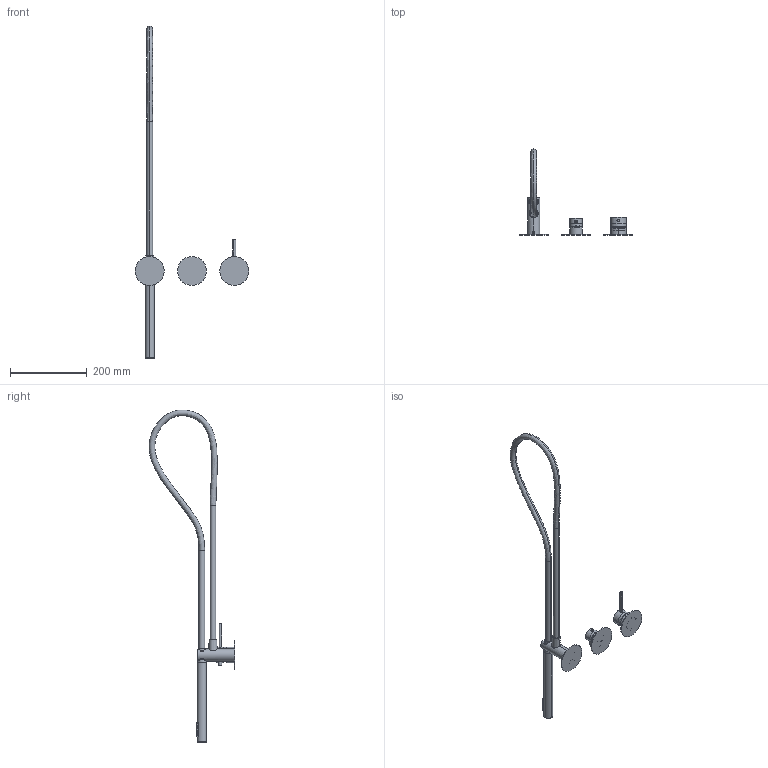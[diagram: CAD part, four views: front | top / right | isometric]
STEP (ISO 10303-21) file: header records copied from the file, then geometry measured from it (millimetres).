
FILE_DESCRIPTION((''),'2;1');
FILE_NAME('69559V221_SW0001','2025-02-14T11:02:53',('carloff'),(''),'CREO PARAMETRIC BY PTC INC, 2022014','CREO PARAMETRIC BY PTC INC, 2022014','');
FILE_SCHEMA(('CONFIG_CONTROL_DESIGN'));
Length unit declared in the file: millimetre
Products named in the file (1): 69559V221_SW0001
Bounding box: 295 x 222.93 x 863.11 mm (x, y, z)
Volume: 485393.4 mm3; surface area: 157681.6 mm2
Topology: 5 solids, 5 shells, 751 faces, 1900 edges, 1214 vertices
Faces by surface type: plane 274, cylinder 273, torus 132, cone 60, bspline 10, sphere 2
Entity records: 29070 total; most frequent: CARTESIAN_POINT 10847, DIRECTION 3881, ORIENTED_EDGE 3784, EDGE_CURVE 1892, AXIS2_PLACEMENT_3D 1517, VERTEX_POINT 1214, VECTOR 847, LINE 847
